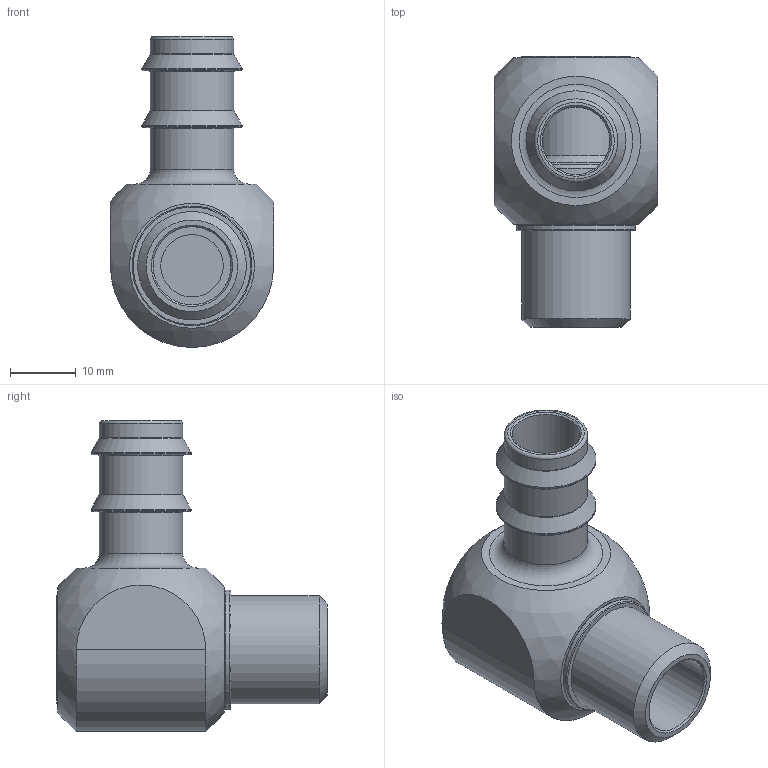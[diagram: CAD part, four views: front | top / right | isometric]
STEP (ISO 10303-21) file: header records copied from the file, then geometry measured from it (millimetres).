
FILE_DESCRIPTION(/* description */ (''),/* implementation_level */ '2;1');
FILE_NAME(/* name */ 'C:/Users/drich/Desktop/WJ38-S v1.step',/* time_stamp */ '2019-11-18T20:12:53-06:00',/* author */ (''),/* organization */ (''),/* preprocessor_version */ 'ST-DEVELOPER v18',/* originating_system */ 'Autodesk Translation Framework v8.12.0.6',/* authorisation */ '');
FILE_SCHEMA (('AUTOMOTIVE_DESIGN { 1 0 10303 214 3 1 1 }'));
Length unit declared in the file: inch
Products named in the file (4): WJ38-S; WJ38 BODY; WJ38-S SHAFT; WJ38-S SHAFT_1
Assembly tree (3 placements, depth 3):
  WJ38-S
    WJ38 BODY
    WJ38-S SHAFT
      WJ38-S SHAFT_1
Bounding box: 24.89 x 41.27 x 47.37 mm (x, y, z)
Volume: 10630.7 mm3; surface area: 9869.7 mm2
Topology: 2 solids, 2 shells, 91 faces, 258 edges, 186 vertices
Faces by surface type: torus 30, plane 27, cylinder 22, cone 11, sphere 1
Full cylindrical faces by diameter (mm): 9.5 x1, 10.312 x1, 11.887 x1, 12.7 x3, 13.97 x1, 15.24 x2, 16.537 x1, 16.891 x1, 17.018 x2, 17.12 x3, 17.424 x1, 18.237 x1, 19.685 x1, 19.812 x1, 22.352 x1
Entity records: 3287 total; most frequent: DIRECTION 643, CARTESIAN_POINT 590, ORIENTED_EDGE 514, AXIS2_PLACEMENT_3D 298, EDGE_CURVE 257, CIRCLE 200, VERTEX_POINT 186, EDGE_LOOP 111
